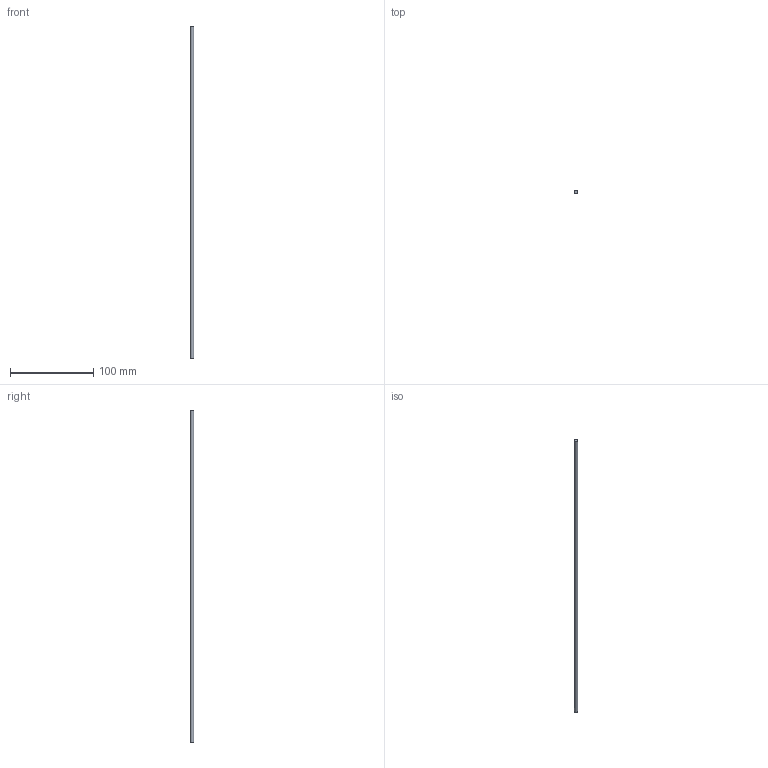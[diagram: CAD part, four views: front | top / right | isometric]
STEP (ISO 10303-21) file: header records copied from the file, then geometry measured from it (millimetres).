
FILE_DESCRIPTION(/* description */ ('STEP AP242 Edition 2','CAx-IF Rec.Pracs.---Representation and Presentation of Product Manufacturing Information (PMI)---4.0---2014-10-13','CAx-IF Rec.Pracs.---3D Tessellated Geometry---0.4---2014-09-14','2;1','CAx-IF Rec.Pracs.---User Defined Attributes---1.5---2016-08-15'),/* implementation_level */ '2;1');
FILE_NAME(/* name */ '695aff1fd13f1a0233889539',/* time_stamp */ '2026-01-05T00:00:32Z',/* author */ (''),/* organization */ (''),/* preprocessor_version */ 'ST-DEVELOPER v20',/* originating_system */ 'ONSHAPE BY PTC INC, 1.208',/* authorisation */ ' ');
FILE_SCHEMA (('AP242_MANAGED_MODEL_BASED_3D_ENGINEERING_MIM_LF { 1 0 10303 442 3 1 4 }'));
Length unit declared in the file: metre
Products named in the file (1): Part 1
Bounding box: 4 x 4 x 400 mm (x, y, z)
Volume: 5026.5 mm3; surface area: 5051.7 mm2
Topology: 1 solids, 1 shells, 3 faces, 3 edges, 2 vertices
Faces by surface type: plane 2, cylinder 1
Full cylindrical faces by diameter (mm): 4 x1
Entity records: 76 total; most frequent: DIRECTION 12, CARTESIAN_POINT 8, AXIS2_PLACEMENT_3D 6, ORIENTED_EDGE 4, EDGE_LOOP 4, FACE_BOUND 4, ADVANCED_FACE 3, PLANE 2
